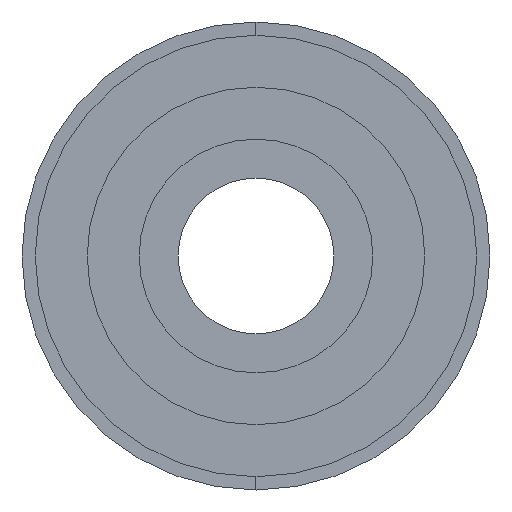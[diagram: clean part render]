
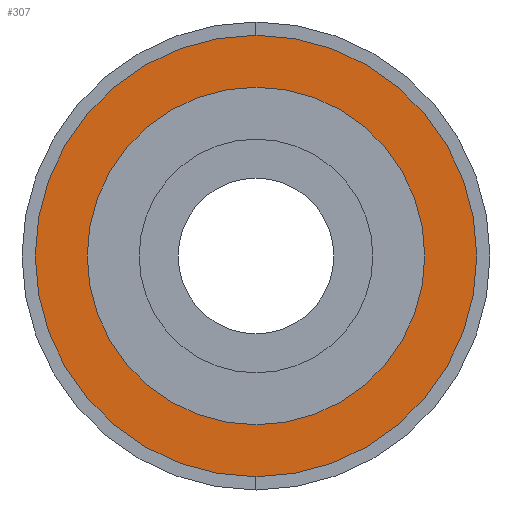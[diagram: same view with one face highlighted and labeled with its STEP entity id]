
A CAD part, left-side view. The second image highlights one B-rep face of the part: STEP entity #307.
In plain terms, the highlighted planar face has unit normal (-1, 0, 0).
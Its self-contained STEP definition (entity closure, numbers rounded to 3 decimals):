
#12 = EDGE_CURVE ( 'NONE', #461, #380, #57, .T. ) ;
#51 = ORIENTED_EDGE ( 'NONE', *, *, #563, .F. ) ;
#57 = CIRCLE ( 'NONE', #333, 8.5 ) ;
#93 = DIRECTION ( 'NONE',  ( -1., 0., 0. ) ) ;
#120 = CIRCLE ( 'NONE', #886, 6.5 ) ;
#179 = FACE_BOUND ( 'NONE', #985, .T. ) ;
#232 = ORIENTED_EDGE ( 'NONE', *, *, #12, .T. ) ;
#257 = ORIENTED_EDGE ( 'NONE', *, *, #559, .T. ) ;
#274 = VERTEX_POINT ( 'NONE', #1107 ) ;
#307 = ADVANCED_FACE ( 'NONE', ( #179, #1044 ), #405, .F. ) ;
#330 = EDGE_CURVE ( 'NONE', #274, #982, #383, .T. ) ;
#333 = AXIS2_PLACEMENT_3D ( 'NONE', #891, #970, #1055 ) ;
#380 = VERTEX_POINT ( 'NONE', #1050 ) ;
#383 = CIRCLE ( 'NONE', #797, 6.5 ) ;
#390 = CIRCLE ( 'NONE', #999, 8.5 ) ;
#405 = PLANE ( 'NONE',  #741 ) ;
#407 = CARTESIAN_POINT ( 'NONE',  ( 4., 0., -6.5 ) ) ;
#418 = DIRECTION ( 'NONE',  ( -1., 0., 0. ) ) ;
#421 = DIRECTION ( 'NONE',  ( -1., 0., 0. ) ) ;
#461 = VERTEX_POINT ( 'NONE', #617 ) ;
#487 = ORIENTED_EDGE ( 'NONE', *, *, #330, .F. ) ;
#495 = CARTESIAN_POINT ( 'NONE',  ( 4., 6.5, 0. ) ) ;
#559 = EDGE_CURVE ( 'NONE', #380, #461, #390, .T. ) ;
#563 = EDGE_CURVE ( 'NONE', #982, #274, #120, .T. ) ;
#599 = CARTESIAN_POINT ( 'NONE',  ( 4., 0., 0. ) ) ;
#617 = CARTESIAN_POINT ( 'NONE',  ( 4., 0., 8.5 ) ) ;
#685 = DIRECTION ( 'NONE',  ( 0., 0., 1. ) ) ;
#693 = EDGE_LOOP ( 'NONE', ( #232, #257 ) ) ;
#741 = AXIS2_PLACEMENT_3D ( 'NONE', #495, #834, #1102 ) ;
#797 = AXIS2_PLACEMENT_3D ( 'NONE', #943, #421, #1035 ) ;
#834 = DIRECTION ( 'NONE',  ( 1., 0., 0. ) ) ;
#886 = AXIS2_PLACEMENT_3D ( 'NONE', #599, #93, #685 ) ;
#891 = CARTESIAN_POINT ( 'NONE',  ( 4., 0., 0. ) ) ;
#942 = CARTESIAN_POINT ( 'NONE',  ( 4., 0., 0. ) ) ;
#943 = CARTESIAN_POINT ( 'NONE',  ( 4., 0., 0. ) ) ;
#970 = DIRECTION ( 'NONE',  ( -1., 0., 0. ) ) ;
#982 = VERTEX_POINT ( 'NONE', #407 ) ;
#985 = EDGE_LOOP ( 'NONE', ( #487, #51 ) ) ;
#999 = AXIS2_PLACEMENT_3D ( 'NONE', #942, #418, #1033 ) ;
#1033 = DIRECTION ( 'NONE',  ( 0., 0., 1. ) ) ;
#1035 = DIRECTION ( 'NONE',  ( 0., 0., 1. ) ) ;
#1044 = FACE_OUTER_BOUND ( 'NONE', #693, .T. ) ;
#1050 = CARTESIAN_POINT ( 'NONE',  ( 4., 0., -8.5 ) ) ;
#1055 = DIRECTION ( 'NONE',  ( 0., 0., 1. ) ) ;
#1102 = DIRECTION ( 'NONE',  ( 0., 0., -1. ) ) ;
#1107 = CARTESIAN_POINT ( 'NONE',  ( 4., 0., 6.5 ) ) ;
